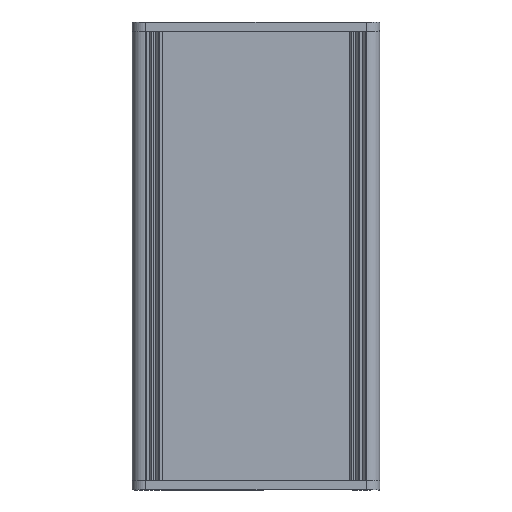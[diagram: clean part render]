
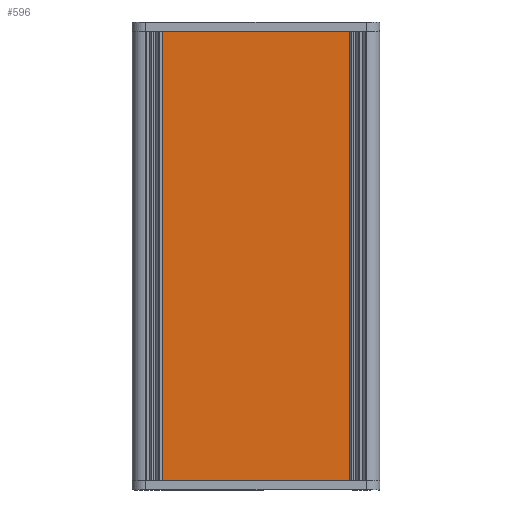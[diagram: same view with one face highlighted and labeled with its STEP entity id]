
A CAD part, front view. The second image highlights one B-rep face of the part: STEP entity #596.
In plain terms, the highlighted planar face has unit normal (0, -1, 0).
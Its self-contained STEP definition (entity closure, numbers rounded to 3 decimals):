
#538=CARTESIAN_POINT('',(48.2,0.7,100.0));
#539=VERTEX_POINT('',#538);
#547=CARTESIAN_POINT('',(48.2,0.7,0.0));
#548=VERTEX_POINT('',#547);
#549=CARTESIAN_POINT('',(48.2,0.7,0.0));
#550=DIRECTION('',(0.0,0.0,1.0));
#551=VECTOR('',#550,100.0);
#552=LINE('',#549,#551);
#553=EDGE_CURVE('',#548,#539,#552,.T.);
#566=CARTESIAN_POINT('',(48.2,0.7,0.0));
#567=DIRECTION('',(0.0,-1.0,0.0));
#568=DIRECTION('',(0.0,0.0,-1.0));
#569=AXIS2_PLACEMENT_3D('',#566,#567,#568);
#570=PLANE('',#569);
#571=CARTESIAN_POINT('',(6.75,0.7,100.0));
#572=VERTEX_POINT('',#571);
#573=CARTESIAN_POINT('',(48.2,0.7,100.0));
#574=DIRECTION('',(-1.0,0.0,0.0));
#575=VECTOR('',#574,41.45);
#576=LINE('',#573,#575);
#577=EDGE_CURVE('',#539,#572,#576,.T.);
#578=ORIENTED_EDGE('',*,*,#577,.T.);
#579=CARTESIAN_POINT('',(6.75,0.7,0.0));
#580=VERTEX_POINT('',#579);
#581=CARTESIAN_POINT('',(6.75,0.7,0.0));
#582=DIRECTION('',(0.0,0.0,1.0));
#583=VECTOR('',#582,100.0);
#584=LINE('',#581,#583);
#585=EDGE_CURVE('',#580,#572,#584,.T.);
#586=ORIENTED_EDGE('',*,*,#585,.F.);
#587=CARTESIAN_POINT('',(48.2,0.7,0.0));
#588=DIRECTION('',(-1.0,0.0,0.0));
#589=VECTOR('',#588,41.45);
#590=LINE('',#587,#589);
#591=EDGE_CURVE('',#548,#580,#590,.T.);
#592=ORIENTED_EDGE('',*,*,#591,.F.);
#593=ORIENTED_EDGE('',*,*,#553,.T.);
#594=EDGE_LOOP('',(#578,#586,#592,#593));
#595=FACE_OUTER_BOUND('',#594,.T.);
#596=ADVANCED_FACE('',(#595),#570,.T.);
